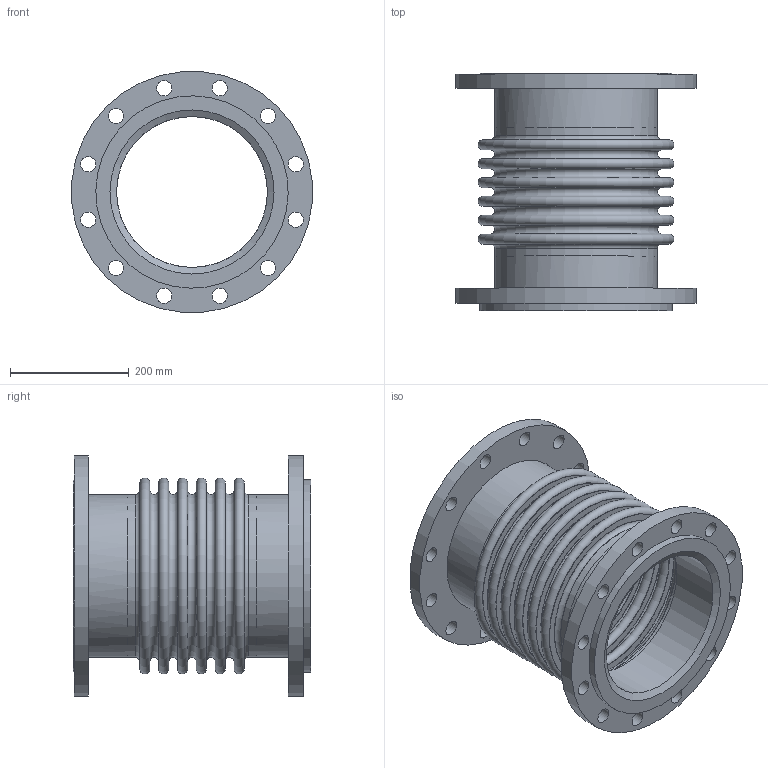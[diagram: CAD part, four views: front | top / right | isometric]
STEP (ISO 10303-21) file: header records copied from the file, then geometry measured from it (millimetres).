
FILE_DESCRIPTION(/* description */ (''),/* implementation_level */ '2;1');
FILE_NAME(/* name */ 'C:\001_Work\Designs\EFL50-ASA150LB\EFL50-10x15.75 (ASA150LB).stp',/* time_stamp */ '2016-05-10T09:23:54-04:00',/* author */ ('rramoutar'),/* organization */ ('Mason Industries Inc.'),/* preprocessor_version */ 'ST-DEVELOPER v15.6',/* originating_system */ 'Autodesk Inventor 2015',/* authorisation */ '');
FILE_SCHEMA (('CONFIG_CONTROL_DESIGN'));
Length unit declared in the file: inch
Products named in the file (1): EFL50-10x15.75
Bounding box: 404.85 x 400.05 x 404.85 mm (x, y, z)
Volume: 5392567.1 mm3; surface area: 1638208.5 mm2
Topology: 1 solids, 1 shells, 101 faces, 213 edges, 147 vertices
Faces by surface type: cylinder 37, plane 35, torus 26, cone 3
Full cylindrical faces by diameter (mm): 25.4 x24, 254 x2, 272.288 x2, 274.32 x2, 276.225 x3, 323.85 x2, 406.4 x2
Entity records: 2505 total; most frequent: DIRECTION 454, CARTESIAN_POINT 352, EDGE_LOOP 250, ORIENTED_EDGE 250, AXIS2_PLACEMENT_3D 227, FACE_BOUND 149, CIRCLE 125, VERTEX_POINT 125
